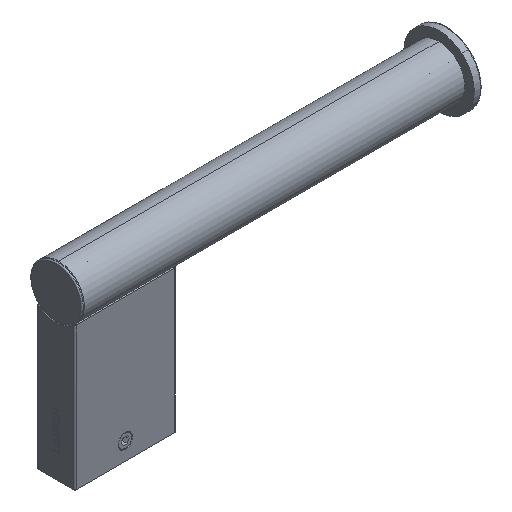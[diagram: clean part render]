
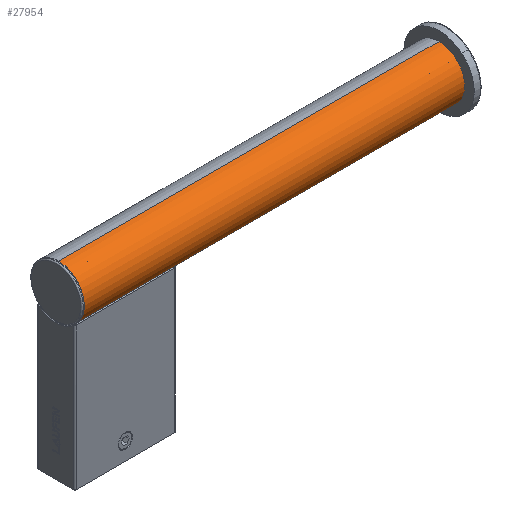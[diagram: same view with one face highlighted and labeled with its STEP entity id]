
A CAD part, isometric view. The second image highlights one B-rep face of the part: STEP entity #27954.
In plain terms, the highlighted cylindrical face has radius 11 mm (diameter 22 mm), a partial arc.
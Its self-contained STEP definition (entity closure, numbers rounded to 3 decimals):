
#459 = EDGE_LOOP ( 'NONE', ( #5822, #31715, #6896, #25405, #7114, #30905, #16559, #3179 ) ) ;
#763 = CARTESIAN_POINT ( 'NONE',  ( -20.5, 0., 69. ) ) ;
#944 = CARTESIAN_POINT ( 'NONE',  ( -9.166, -3.213, 58.476 ) ) ;
#997 = DIRECTION ( 'NONE',  ( 0., 0., -1. ) ) ;
#1051 = CARTESIAN_POINT ( 'NONE',  ( -5., -5.25, 59.334 ) ) ;
#2865 = CARTESIAN_POINT ( 'NONE',  ( -10.241, -0.351, 58.004 ) ) ;
#3179 = ORIENTED_EDGE ( 'NONE', *, *, #6843, .T. ) ;
#3351 = LINE ( 'NONE', #11537, #32290 ) ;
#3745 = CARTESIAN_POINT ( 'NONE',  ( 9.168, -3.21, 58.475 ) ) ;
#4055 = DIRECTION ( 'NONE',  ( -1., 0., 0. ) ) ;
#4083 = CARTESIAN_POINT ( 'NONE',  ( -10.25, 0., 58. ) ) ;
#4290 = CARTESIAN_POINT ( 'NONE',  ( -20.5, 0., 69. ) ) ;
#4610 = FACE_OUTER_BOUND ( 'NONE', #459, .T. ) ;
#4873 = AXIS2_PLACEMENT_3D ( 'NONE', #19654, #19891, #22695 ) ;
#5822 = ORIENTED_EDGE ( 'NONE', *, *, #27777, .F. ) ;
#5847 = CARTESIAN_POINT ( 'NONE',  ( -10.25, -0.174, 58. ) ) ;
#5958 = CARTESIAN_POINT ( 'NONE',  ( -5.352, -5.25, 59.334 ) ) ;
#6062 = CARTESIAN_POINT ( 'NONE',  ( 9.968, -1.708, 58.132 ) ) ;
#6084 = CARTESIAN_POINT ( 'NONE',  ( -7.644, -4.548, 58.982 ) ) ;
#6198 = CARTESIAN_POINT ( 'NONE',  ( -10.18, -0.871, 58.033 ) ) ;
#6252 = VERTEX_POINT ( 'NONE', #31331 ) ;
#6841 = B_SPLINE_CURVE_WITH_KNOTS ( 'NONE', 3,
 ( #28353, #10073, #33758, #20392, #31546, #26898, #23277, #8695, #33326, #32705, #3745, #16387, #21058, #34665, #6062, #21116, #24869, #7169, #20288, #28576 ),
 .UNSPECIFIED., .F., .F.,
 ( 4, 2, 2, 2, 2, 2, 2, 2, 2, 4 ),
 ( 0., 0.001, 0.002, 0.003, 0.004, 0.005, 0.006, 0.007, 0.007, 0.008 ),
 .UNSPECIFIED. ) ;
#6843 = EDGE_CURVE ( 'NONE', #33669, #27229, #25128, .T. ) ;
#6896 = ORIENTED_EDGE ( 'NONE', *, *, #27607, .T. ) ;
#7114 = ORIENTED_EDGE ( 'NONE', *, *, #20331, .T. ) ;
#7169 = CARTESIAN_POINT ( 'NONE',  ( 10.216, -0.694, 58.017 ) ) ;
#7939 = DIRECTION ( 'NONE',  ( 1., 0., 0. ) ) ;
#8497 = CARTESIAN_POINT ( 'NONE',  ( -20.5, 0., 58. ) ) ;
#8695 = CARTESIAN_POINT ( 'NONE',  ( 8.211, -4.168, 58.818 ) ) ;
#8908 = CARTESIAN_POINT ( 'NONE',  ( -8.21, -4.168, 58.818 ) ) ;
#9727 = DIRECTION ( 'NONE',  ( 1., 0., 0. ) ) ;
#9919 = EDGE_CURVE ( 'NONE', #6252, #33669, #33987, .T. ) ;
#10073 = CARTESIAN_POINT ( 'NONE',  ( 5.353, -5.25, 59.334 ) ) ;
#10416 = CARTESIAN_POINT ( 'NONE',  ( -20.5, 0., 80. ) ) ;
#11190 = CARTESIAN_POINT ( 'NONE',  ( -5., -5.25, 59.334 ) ) ;
#11537 = CARTESIAN_POINT ( 'NONE',  ( -20.5, -5.25, 59.334 ) ) ;
#11604 = CARTESIAN_POINT ( 'NONE',  ( -8.47, -3.954, 58.732 ) ) ;
#12881 = AXIS2_PLACEMENT_3D ( 'NONE', #4290, #4055, #27952 ) ;
#13412 = VECTOR ( 'NONE', #7939, 1000. ) ;
#16387 = CARTESIAN_POINT ( 'NONE',  ( 9.549, -2.642, 58.318 ) ) ;
#16544 = CARTESIAN_POINT ( 'NONE',  ( -10.25, 0., 58. ) ) ;
#16559 = ORIENTED_EDGE ( 'NONE', *, *, #9919, .T. ) ;
#16653 = CARTESIAN_POINT ( 'NONE',  ( -9.546, -2.649, 58.32 ) ) ;
#16764 = CARTESIAN_POINT ( 'NONE',  ( -6.386, -5.076, 59.241 ) ) ;
#16814 = DIRECTION ( 'NONE',  ( 1., 0., 0. ) ) ;
#16888 = CARTESIAN_POINT ( 'NONE',  ( -5.7, -5.215, 59.314 ) ) ;
#18104 = VERTEX_POINT ( 'NONE', #21403 ) ;
#18492 = VECTOR ( 'NONE', #9727, 1000. ) ;
#18559 = VERTEX_POINT ( 'NONE', #21796 ) ;
#18625 = EDGE_CURVE ( 'NONE', #31958, #25089, #19553, .T. ) ;
#18772 = CARTESIAN_POINT ( 'NONE',  ( 141.5, 0., 58. ) ) ;
#19536 = DIRECTION ( 'NONE',  ( 1., 0., 0. ) ) ;
#19553 = B_SPLINE_CURVE_WITH_KNOTS ( 'NONE', 3,
 ( #16544, #5847, #2865, #30274, #6198, #32948, #33185, #24968, #16653, #944, #19698, #11604, #8908, #6084, #25073, #27667, #16764, #16888, #5958, #1051 ),
 .UNSPECIFIED., .F., .F.,
 ( 4, 2, 2, 2, 2, 2, 2, 2, 2, 4 ),
 ( 0.008, 0.009, 0.009, 0.01, 0.011, 0.012, 0.014, 0.015, 0.016, 0.017 ),
 .UNSPECIFIED. ) ;
#19654 = CARTESIAN_POINT ( 'NONE',  ( 141.5, 0., 69. ) ) ;
#19698 = CARTESIAN_POINT ( 'NONE',  ( -8.947, -3.478, 58.561 ) ) ;
#19891 = DIRECTION ( 'NONE',  ( -1., 0., 0. ) ) ;
#20288 = CARTESIAN_POINT ( 'NONE',  ( 10.25, -0.349, 58. ) ) ;
#20331 = EDGE_CURVE ( 'NONE', #25089, #22133, #3351, .T. ) ;
#20392 = CARTESIAN_POINT ( 'NONE',  ( 6.377, -5.078, 59.242 ) ) ;
#21058 = CARTESIAN_POINT ( 'NONE',  ( 9.711, -2.343, 58.248 ) ) ;
#21116 = CARTESIAN_POINT ( 'NONE',  ( 10.07, -1.375, 58.085 ) ) ;
#21403 = CARTESIAN_POINT ( 'NONE',  ( -20.5, 0., 80. ) ) ;
#21592 = CARTESIAN_POINT ( 'NONE',  ( 5., -5.25, 59.334 ) ) ;
#21796 = CARTESIAN_POINT ( 'NONE',  ( -20.5, 0., 58. ) ) ;
#22133 = VERTEX_POINT ( 'NONE', #21592 ) ;
#22509 = AXIS2_PLACEMENT_3D ( 'NONE', #763, #19536, #997 ) ;
#22695 = DIRECTION ( 'NONE',  ( 0., 0., 1. ) ) ;
#23277 = CARTESIAN_POINT ( 'NONE',  ( 7.645, -4.548, 58.982 ) ) ;
#24869 = CARTESIAN_POINT ( 'NONE',  ( 10.113, -1.205, 58.065 ) ) ;
#24968 = CARTESIAN_POINT ( 'NONE',  ( -9.708, -2.349, 58.249 ) ) ;
#25073 = CARTESIAN_POINT ( 'NONE',  ( -7.343, -4.711, 59.059 ) ) ;
#25089 = VERTEX_POINT ( 'NONE', #11190 ) ;
#25128 = CIRCLE ( 'NONE', #4873, 11. ) ;
#25405 = ORIENTED_EDGE ( 'NONE', *, *, #18625, .T. ) ;
#25577 = LINE ( 'NONE', #25773, #18492 ) ;
#25773 = CARTESIAN_POINT ( 'NONE',  ( -20.5, 0., 58. ) ) ;
#26215 = CARTESIAN_POINT ( 'NONE',  ( 141.5, 0., 80. ) ) ;
#26834 = CYLINDRICAL_SURFACE ( 'NONE', #22509, 11. ) ;
#26898 = CARTESIAN_POINT ( 'NONE',  ( 7.345, -4.709, 59.058 ) ) ;
#27229 = VERTEX_POINT ( 'NONE', #26215 ) ;
#27259 = DIRECTION ( 'NONE',  ( 1., 0., 0. ) ) ;
#27607 = EDGE_CURVE ( 'NONE', #18559, #31958, #25577, .T. ) ;
#27667 = CARTESIAN_POINT ( 'NONE',  ( -6.715, -4.973, 59.187 ) ) ;
#27777 = EDGE_CURVE ( 'NONE', #18104, #27229, #33124, .T. ) ;
#27952 = DIRECTION ( 'NONE',  ( 0., 0., 1. ) ) ;
#27954 = ADVANCED_FACE ( 'NONE', ( #4610 ), #26834, .T. ) ;
#28039 = EDGE_CURVE ( 'NONE', #18559, #18104, #29374, .T. ) ;
#28353 = CARTESIAN_POINT ( 'NONE',  ( 5., -5.25, 59.334 ) ) ;
#28576 = CARTESIAN_POINT ( 'NONE',  ( 10.25, 0., 58. ) ) ;
#29374 = CIRCLE ( 'NONE', #12881, 11. ) ;
#29413 = EDGE_CURVE ( 'NONE', #22133, #6252, #6841, .T. ) ;
#30274 = CARTESIAN_POINT ( 'NONE',  ( -10.206, -0.699, 58.021 ) ) ;
#30905 = ORIENTED_EDGE ( 'NONE', *, *, #29413, .T. ) ;
#31331 = CARTESIAN_POINT ( 'NONE',  ( 10.25, 0., 58. ) ) ;
#31546 = CARTESIAN_POINT ( 'NONE',  ( 6.713, -4.975, 59.188 ) ) ;
#31715 = ORIENTED_EDGE ( 'NONE', *, *, #28039, .F. ) ;
#31958 = VERTEX_POINT ( 'NONE', #4083 ) ;
#32290 = VECTOR ( 'NONE', #16814, 1000. ) ;
#32705 = CARTESIAN_POINT ( 'NONE',  ( 8.951, -3.474, 58.56 ) ) ;
#32948 = CARTESIAN_POINT ( 'NONE',  ( -10.077, -1.379, 58.081 ) ) ;
#33124 = LINE ( 'NONE', #10416, #13412 ) ;
#33185 = CARTESIAN_POINT ( 'NONE',  ( -9.975, -1.712, 58.129 ) ) ;
#33326 = CARTESIAN_POINT ( 'NONE',  ( 8.474, -3.951, 58.731 ) ) ;
#33568 = VECTOR ( 'NONE', #27259, 1000. ) ;
#33669 = VERTEX_POINT ( 'NONE', #18772 ) ;
#33758 = CARTESIAN_POINT ( 'NONE',  ( 5.699, -5.215, 59.314 ) ) ;
#33987 = LINE ( 'NONE', #8497, #33568 ) ;
#34665 = CARTESIAN_POINT ( 'NONE',  ( 9.909, -1.87, 58.159 ) ) ;
